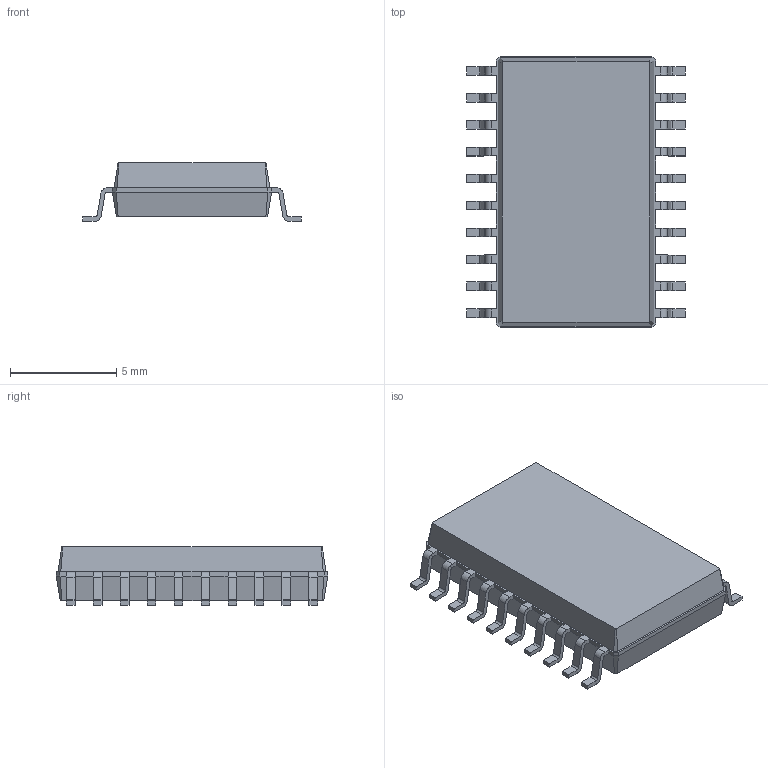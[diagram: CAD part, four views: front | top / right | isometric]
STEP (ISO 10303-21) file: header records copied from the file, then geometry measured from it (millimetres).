
FILE_DESCRIPTION(/* description */ ('STEP AP242 Edition 2','CAx-IF Rec.Pracs.---Representation and Presentation of Product Manufacturing Information (PMI)---4.0---2014-10-13','CAx-IF Rec.Pracs.---3D Tessellated Geometry---0.4---2014-09-14','2;1','CAx-IF Rec.Pracs.---User Defined Attributes---1.5---2016-08-15'),/* implementation_level */ '2;1');
FILE_NAME(/* name */ 'Part Studio 1 - Surface 3',/* time_stamp */ '2026-11-25T23:28:52Z',/* author */ (''),/* organization */ (''),/* preprocessor_version */ 'ST-DEVELOPER v20',/* originating_system */ 'ONSHAPE BY PTC INC, 1.224',/* authorisation */ ' ');
FILE_SCHEMA (('AP242_MANAGED_MODEL_BASED_3D_ENGINEERING_MIM_LF { 1 0 10303 442 3 1 4 }'));
Length unit declared in the file: metre
Products named in the file (1): SOIC-20W_7.5x12.8mm_P1.27mm
Bounding box: 10.3 x 12.8 x 2.75 mm (x, y, z)
Volume: 236.5 mm3; surface area: 338.5 mm2
Topology: 1 solids, 1 shells, 287 faces, 804 edges, 520 vertices
Faces by surface type: plane 207, cylinder 80
Entity records: 9464 total; most frequent: CARTESIAN_POINT 1612, ORIENTED_EDGE 1608, DIRECTION 1540, EDGE_CURVE 804, LINE 644, VECTOR 644, VERTEX_POINT 520, AXIS2_PLACEMENT_3D 448
